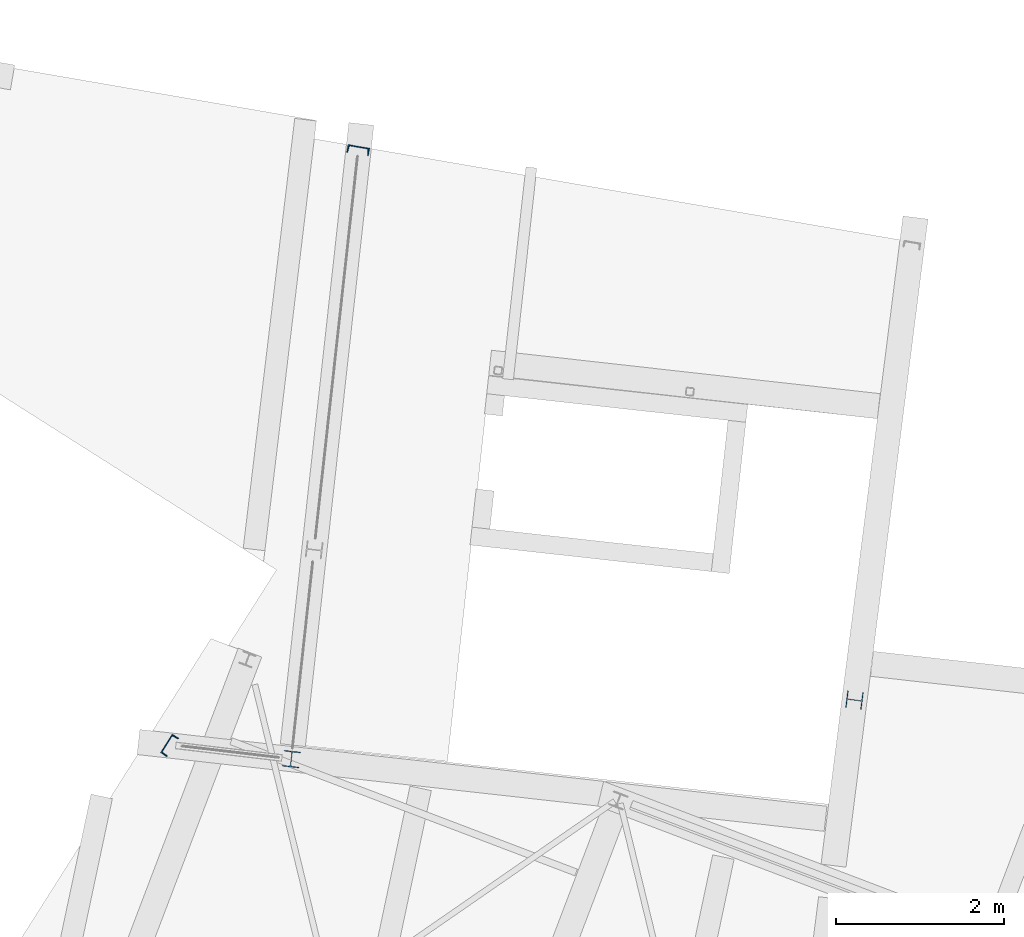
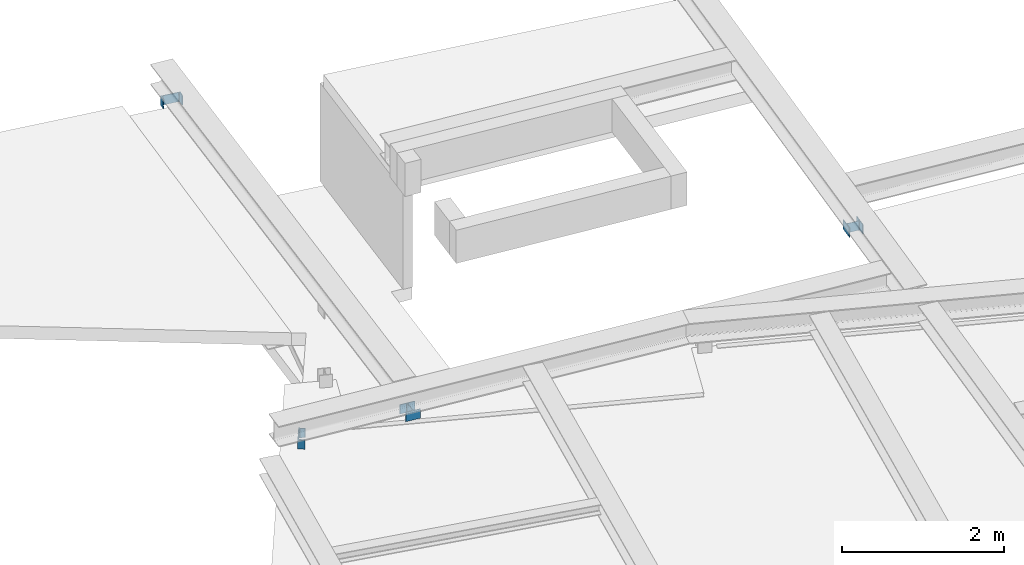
# One storey, part 20 of 21: 4 columns.
"""IFC2X3 building model written with IfcOpenShell, lengths in millimetres."""

from ifc_helpers import new_model, entity, si_unit, converted_unit, derived_unit, direction, frame, origin, place, context, subcontext, project, spatial, faceted_brep, source, transform, mapped, material, type_object, type_shapes, element, save


model = new_model("IFC2X3")

# Units and contexts
model_context = context("Model", 3, precision=0.01, world=origin(), true_north=direction((6.123233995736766e-17, 1.0)))
body_context = subcontext(model_context, "Body", "Model", "MODEL_VIEW")
ifc_project = project(units=[si_unit("LENGTHUNIT", "METRE", prefix="MILLI"), converted_unit("PLANEANGLEUNIT", "DEGREE", entity("IfcPlaneAngleMeasure", 0.017453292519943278), si_unit("PLANEANGLEUNIT", "RADIAN"), dimensions=[0, 0, 0, 0, 0, 0, 0]), si_unit("AREAUNIT", "SQUARE_METRE"), derived_unit("THERMALTRANSMITTANCEUNIT", [(si_unit("MASSUNIT", "GRAM", prefix="KILO"), 1), (si_unit("THERMODYNAMICTEMPERATUREUNIT", "KELVIN"), -1), (si_unit("TIMEUNIT", "SECOND"), -3)])], contexts=[model_context])

# Site, building, storey
site_placement = place(None, frame((-72937.88054949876, 11621.45624098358, 0.0), z_axis=(0.0, 0.0, 1.0), x_axis=(0.9346418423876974, -0.35559053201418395, 0.0)))
site = spatial("IfcSite", under=ifc_project, at=site_placement, Name="Default", CompositionType="ELEMENT")
building_placement = place(site_placement, origin())
building = spatial("IfcBuilding", under=site, at=building_placement, CompositionType="ELEMENT")
storey_placement = place(building_placement, frame((0.0, 0.0, 4250.0)))
storey = spatial("IfcBuildingStorey", under=building, at=storey_placement, Name="01 eerste verdieping", CompositionType="ELEMENT", Elevation=4250.0)

# Columns
ifc_material = material(Name="metaal_staal_generiek")
column_type_1 = type_object("IfcColumnType", Name="UNP260", PredefinedType="COLUMN", material=ifc_material)
shared_shape_1 = source(origin(), body_context, "Body", "Brep", [
    faceted_brep([(14568.064851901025, 27588.15574763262, 4250.0), (14479.877215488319, 27606.126300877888, 4250.0), (14479.877215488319, 27606.126300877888, 4390.0), (14568.064851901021, 27588.155747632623, 4390.0), (14567.278082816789, 27584.294803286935, 4390.0), (14567.278082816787, 27584.29480328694, 4343.809091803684), (14567.278082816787, 27584.29480328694, 4297.618183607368), (14567.278082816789, 27584.294803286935, 4250.0), (14516.14992030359, 27333.391464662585, 4250.0), (14516.93668938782, 27337.25240900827, 4250.0), (14516.93668938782, 27337.25240900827, 4297.61818360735), (14516.93668938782, 27337.25240900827, 4343.809091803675), (14516.93668938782, 27337.25240900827, 4390.0), (14516.14992030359, 27333.391464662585, 4390.0), (14564.974485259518, 27580.377632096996, 4355.356818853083), (14566.723605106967, 27582.650718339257, 4390.0), (14565.781787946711, 27581.1935150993, 4390.0), (14566.723605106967, 27582.650718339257, 4250.0), (14562.987830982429, 27579.18088218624, 4390.0), (14561.307346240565, 27578.74910460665, 4390.0), (14564.510494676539, 27580.01272118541, 4390.0), (14564.070773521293, 27579.720505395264, 4285.356818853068), (14559.57228603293, 27578.743915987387, 4297.618183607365), (14561.307346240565, 27578.74910460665, 4250.0), (14559.57228603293, 27578.743915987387, 4390.0), (14559.57228603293, 27578.743915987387, 4343.809091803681), (14559.57228603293, 27578.743915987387, 4250.0), (14564.510494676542, 27580.01272118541, 4320.7136377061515), (14564.510494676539, 27580.01272118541, 4250.0), (14565.781787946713, 27581.1935150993, 4250.0), (14562.987830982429, 27579.18088218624, 4250.0), (14499.152519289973, 27586.10668933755, 4250.0), (14499.152519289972, 27586.10668933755, 4390.0), (14499.152519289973, 27586.106689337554, 4315.323808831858), (14496.553846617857, 27586.180203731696, 4322.545894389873), (14493.975054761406, 27585.76907159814, 4319.999999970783), (14495.682398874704, 27586.09631209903, 4250.0), (14483.740925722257, 27575.00491473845, 4390.0), (14483.740925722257, 27575.00491473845, 4324.675967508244), (14483.740925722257, 27575.00491473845, 4250.0), (14484.494289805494, 27577.493076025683, 4317.454105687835), (14484.849881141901, 27578.293084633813, 4250.0), (14492.321429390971, 27585.23275693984, 4250.0), (14490.74701990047, 27584.49563752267, 4320.000000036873), (14489.276102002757, 27583.569078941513, 4390.0), (14492.321429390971, 27585.23275693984, 4390.0), (14495.682398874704, 27586.09631209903, 4390.0), (14489.276102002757, 27583.569078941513, 4250.0), (14485.70105078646, 27579.808875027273, 4319.999999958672), (14486.733515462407, 27581.207491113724, 4250.0), (14487.931355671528, 27582.467367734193, 4320.00000004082), (14486.733515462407, 27581.207491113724, 4390.0), (14484.849881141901, 27578.293084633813, 4390.0), (14443.695826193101, 27378.489947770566, 4250.0), (14443.695826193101, 27378.489947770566, 4390.0), (14443.695826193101, 27378.489947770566, 4315.323704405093), (14443.415491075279, 27375.905394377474, 4322.545894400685), (14443.619845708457, 27373.302043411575, 4319.999999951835), (14443.429681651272, 27375.030032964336, 4250.0), (14453.534355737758, 27362.24279565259, 4390.0), (14453.534355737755, 27362.242795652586, 4324.676114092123), (14453.534355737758, 27362.24279565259, 4250.0), (14451.114130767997, 27363.192013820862, 4317.454105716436), (14450.344998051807, 27363.6102169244, 4250.0), (14444.022699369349, 27371.610943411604, 4250.0), (14444.632031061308, 27369.982807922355, 4320.000000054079), (14445.438445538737, 27368.442741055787, 4390.0), (14444.022699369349, 27371.610943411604, 4390.0), (14443.429681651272, 27375.030032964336, 4390.0), (14445.438445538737, 27368.442741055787, 4250.0), (14448.901845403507, 27364.57945410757, 4319.999999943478), (14447.589939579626, 27365.7200738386, 4250.0), (14446.429508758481, 27367.014488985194, 4320.000000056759), (14447.589939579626, 27365.7200738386, 4390.0), (14450.344998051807, 27363.6102169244, 4390.0), (14512.017424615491, 27345.375985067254, 4390.0), (14512.017424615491, 27345.375985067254, 4343.809091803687), (14512.017424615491, 27345.375985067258, 4297.618183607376), (14512.017424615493, 27345.375985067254, 4250.0), (14515.738598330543, 27342.767602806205, 4355.356818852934), (14513.612103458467, 27344.69227443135, 4390.0), (14514.98963269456, 27343.63734597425, 4390.0), (14513.612103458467, 27344.69227443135, 4250.0), (14516.773252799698, 27340.691911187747, 4390.0), (14517.069761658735, 27338.982366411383, 4390.0), (14516.065379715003, 27342.276012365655, 4390.0), (14516.321630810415, 27341.814406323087, 4285.356818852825), (14517.069761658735, 27338.982366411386, 4250.0), (14516.06537971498, 27342.276012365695, 4320.713637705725), (14516.065379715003, 27342.27601236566, 4250.0), (14514.989632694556, 27343.63734597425, 4250.0), (14516.773252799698, 27340.691911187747, 4250.0), (14427.96228389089, 27351.362017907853, 4250.0), (14427.962283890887, 27351.362017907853, 4390.0)], [[[0, 1, 2, 3]], [[0, 3, 4, 5, 6, 7]], [[8, 9, 10, 11, 12, 13]], [[14, 15, 16]], [[4, 15, 5]], [[7, 6, 17]], [[14, 18, 19]], [[14, 16, 20]], [[21, 22, 23]], [[19, 24, 25]], [[22, 26, 23]], [[14, 5, 15]], [[27, 21, 6]], [[21, 28, 29]], [[25, 14, 19]], [[25, 22, 27]], [[5, 27, 6]], [[25, 27, 14]], [[30, 21, 23]], [[6, 21, 17]], [[27, 22, 21]], [[17, 21, 29]], [[21, 30, 28]], [[14, 27, 5]], [[14, 20, 18]], [[31, 26, 22, 25, 24, 32, 33]], [[34, 35, 36]], [[37, 38, 39, 40]], [[41, 40, 39]], [[42, 36, 35]], [[33, 32, 34, 31]], [[43, 42, 35]], [[44, 43, 45]], [[45, 35, 46]], [[47, 42, 43]], [[34, 36, 31]], [[48, 40, 41]], [[41, 49, 48]], [[49, 50, 48]], [[43, 44, 50]], [[35, 45, 43]], [[50, 44, 51]], [[47, 43, 50]], [[40, 48, 52]], [[51, 52, 48]], [[46, 35, 34]], [[52, 37, 40]], [[49, 47, 50]], [[46, 34, 32]], [[51, 48, 50]], [[53, 39, 38, 37, 54, 55]], [[56, 57, 58]], [[59, 60, 61, 62]], [[63, 62, 61]], [[64, 58, 57]], [[55, 54, 56, 53]], [[65, 64, 57]], [[66, 65, 67]], [[67, 57, 68]], [[69, 64, 65]], [[56, 58, 53]], [[70, 62, 63]], [[63, 71, 70]], [[71, 72, 70]], [[65, 66, 72]], [[57, 67, 65]], [[72, 66, 73]], [[69, 65, 72]], [[62, 70, 74]], [[73, 74, 70]], [[68, 57, 56]], [[74, 59, 62]], [[71, 69, 72]], [[68, 56, 54]], [[73, 70, 72]], [[61, 60, 59, 75, 76, 77, 78]], [[79, 80, 81]], [[75, 80, 76]], [[82, 78, 77]], [[79, 83, 84]], [[79, 81, 85]], [[86, 10, 87]], [[84, 12, 11]], [[10, 9, 87]], [[79, 76, 80]], [[77, 76, 88]], [[77, 88, 86]], [[86, 89, 90]], [[11, 79, 84]], [[86, 88, 10]], [[11, 88, 79]], [[91, 86, 87]], [[86, 82, 77]], [[88, 11, 10]], [[86, 90, 82]], [[86, 91, 89]], [[88, 76, 79]], [[79, 85, 83]], [[92, 8, 13, 93]], [[1, 92, 93, 2]], [[2, 93, 13, 12, 84, 83, 85, 81, 80, 75, 59, 74, 73, 66, 67, 68, 54, 37, 52, 51, 44, 45, 46, 32, 24, 19, 18, 20, 16, 15, 4, 3]], [[78, 82, 90, 89, 91, 87, 9, 8, 92, 1, 0, 7, 17, 29, 28, 30, 23, 26, 31, 36, 42, 47, 49, 41, 39, 53, 58, 64, 69, 71, 63, 61]]]),
])
type_shapes(column_type_1, [shared_shape_1])
column_1_placement = place(storey_placement, frame((0.0, 0.0, -4250.0)))
element("IfcColumn", 1, at=column_1_placement, inside=storey, type_object=column_type_1, material=ifc_material, Name="28.11_SCO_KolomUNP:UNP260", ObjectType="28.11_SCO_KolomUNP:UNP260", context=body_context, shape_type="MappedRepresentation", body=[
    mapped(shared_shape_1, transform((0.0, 0.0, 0.0), scale=1.0)),
])
column_type_2 = type_object("IfcColumnType", Name="HEA200", PredefinedType="COLUMN", material=ifc_material)
shared_shape_2 = source(origin(), body_context, "Body", "Brep", [
    faceted_brep([(15984.933091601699, 27950.966143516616, 4390.0), (15987.428508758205, 27941.28250302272, 4390.0), (15987.428508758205, 27941.28250302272, 4250.0), (15984.933091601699, 27950.966143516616, 4250.0), (16029.850600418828, 27776.6606146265, 4390.0), (16032.346017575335, 27766.976974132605, 4390.0), (16032.346017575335, 27766.976974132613, 4250.0), (16029.85060041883, 27776.6606146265, 4250.0), (15911.169839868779, 27921.631092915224, 4390.0), (15911.169839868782, 27921.631092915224, 4250.0), (15870.014367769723, 27911.02557000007, 4390.0), (15793.755698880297, 27891.374159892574, 4390.0), (15793.755698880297, 27891.374159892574, 4250.0), (15870.014367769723, 27911.02557000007, 4250.0), (15898.275725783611, 27904.367317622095, 4390.0), (15898.231037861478, 27899.7087891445, 4390.0), (15898.231037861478, 27899.7087891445, 4250.0), (15898.26256209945, 27902.99505875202, 4250.0), (15898.29408633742, 27906.28132835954, 4250.0), (15898.320413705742, 27909.025846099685, 4250.0), (15898.320413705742, 27909.02584609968, 4390.0), (15900.688378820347, 27913.037906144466, 4250.0), (15903.05634393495, 27917.04996618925, 4250.0), (15903.05634393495, 27917.04996618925, 4390.0), (15900.688378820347, 27913.037906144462, 4390.0), (15908.30808478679, 27920.01525890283, 4390.0), (15905.446329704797, 27918.399424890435, 4390.0), (15907.113091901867, 27919.34052955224, 4250.0), (15931.669627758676, 27769.948006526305, 4390.0), (15931.669627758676, 27769.948006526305, 4250.0), (15948.93340305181, 27757.053892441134, 4390.0), (15953.591931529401, 27757.009204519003, 4390.0), (15953.591931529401, 27757.009204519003, 4250.0), (15950.305661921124, 27757.040728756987, 4250.0), (15947.019392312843, 27757.072252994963, 4250.0), (15944.274874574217, 27757.09858036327, 4250.0), (15944.274874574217, 27757.09858036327, 4390.0), (15940.262814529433, 27759.466545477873, 4250.0), (15936.250754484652, 27761.83451059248, 4250.0), (15936.250754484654, 27761.83451059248, 4390.0), (15940.262814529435, 27759.466545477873, 4390.0), (15933.285461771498, 27767.086251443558, 4390.0), (15934.901295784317, 27764.224496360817, 4390.0), (15933.960191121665, 27765.89125855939, 4250.0), (15836.17779054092, 27726.752271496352, 4390.0), (15912.436459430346, 27746.40368160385, 4390.0), (15912.436459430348, 27746.40368160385, 4250.0), (15836.17779054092, 27726.752271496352, 4250.0), (15838.673207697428, 27717.068631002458, 4390.0), (15838.67320769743, 27717.068631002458, 4250.0), (15791.260281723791, 27901.05780038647, 4390.0), (15791.260281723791, 27901.057800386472, 4250.0), (15925.330573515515, 27763.667456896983, 4390.0), (15925.375261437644, 27768.325985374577, 4390.0), (15925.375261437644, 27768.325985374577, 4250.0), (15925.343737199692, 27765.03971576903, 4250.0), (15925.312212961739, 27761.75344616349, 4250.0), (15925.285885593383, 27759.00892841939, 4250.0), (15925.285885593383, 27759.008928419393, 4390.0), (15922.91792047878, 27754.996868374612, 4250.0), (15920.549955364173, 27750.984808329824, 4250.0), (15920.549955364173, 27750.984808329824, 4390.0), (15922.91792047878, 27754.996868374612, 4390.0), (15915.298214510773, 27748.019515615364, 4390.0), (15918.159969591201, 27749.635349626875, 4390.0), (15916.49320739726, 27748.69424496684, 4250.0), (15891.936671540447, 27898.08676799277, 4390.0), (15891.936671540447, 27898.086767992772, 4250.0), (15874.672896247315, 27910.98088207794, 4390.0), (15873.300637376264, 27910.994045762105, 4250.0), (15876.586906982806, 27910.962521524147, 4250.0), (15879.331424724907, 27910.936194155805, 4250.0), (15879.331424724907, 27910.936194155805, 4390.0), (15883.34348476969, 27908.5682290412, 4250.0), (15887.355544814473, 27906.200263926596, 4250.0), (15887.35554481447, 27906.200263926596, 4390.0), (15883.343484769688, 27908.5682290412, 4390.0), (15890.320837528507, 27900.94852307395, 4390.0), (15888.70500351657, 27903.81027815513, 4390.0), (15889.646108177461, 27902.143515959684, 4250.0)], [[[0, 1, 2, 3]], [[4, 5, 6, 7]], [[1, 8, 9, 2]], [[10, 11, 12, 13]], [[14, 15, 16, 17, 18, 19, 20]], [[21, 22, 23, 24, 20, 19]], [[25, 26, 23, 22, 27, 9, 8]], [[15, 28, 29, 16]], [[30, 31, 32, 33, 34, 35, 36]], [[37, 38, 39, 40, 36, 35]], [[41, 42, 39, 38, 43, 29, 28]], [[31, 4, 7, 32]], [[44, 45, 46, 47]], [[5, 48, 49, 6]], [[48, 44, 47, 49]], [[11, 50, 51, 12]], [[52, 53, 54, 55, 56, 57, 58]], [[58, 57, 59, 60, 61, 62]], [[63, 64, 61, 60, 65, 46, 45]], [[53, 66, 67, 54]], [[68, 10, 13, 69, 70, 71, 72]], [[73, 74, 75, 76, 72, 71]], [[77, 78, 75, 74, 79, 67, 66]], [[50, 0, 3, 51]], [[0, 50, 11, 10, 68, 72, 76, 75, 78, 77, 66, 53, 52, 58, 62, 61, 64, 63, 45, 44, 48, 5, 4, 31, 30, 36, 40, 39, 42, 41, 28, 15, 14, 20, 24, 23, 26, 25, 8, 1]], [[60, 59, 57, 56, 55, 54, 67, 79, 74, 73, 71, 70, 69, 13, 12, 51, 3, 2, 9, 27, 22, 21, 19, 18, 17, 16, 29, 43, 38, 37, 35, 34, 33, 32, 7, 6, 49, 47, 46, 65]]]),
])
type_shapes(column_type_2, [shared_shape_2])
column_2_placement = place(storey_placement, frame((0.0, 0.0, -4250.0)))
element("IfcColumn", 2, at=column_2_placement, inside=storey, type_object=column_type_2, material=ifc_material, Name="28.11_SCO_KolomHEA:HEA200", ObjectType="28.11_SCO_KolomHEA:HEA200", context=body_context, shape_type="MappedRepresentation", body=[
    mapped(shared_shape_2, transform((0.0, 0.0, 0.0), scale=1.0)),
])
column_type_3 = type_object("IfcColumnType", Name="UNP260", PredefinedType="COLUMN", material=ifc_material)
shared_shape_3 = source(origin(), body_context, "Body", "Brep", [
    faceted_brep([(14212.449408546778, 34882.25265388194, 4250.0), (14195.209571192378, 34970.58604512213, 4250.0), (14195.209571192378, 34970.58604512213, 4390.0), (14212.44940854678, 34882.25265388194, 4390.0), (14208.58208290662, 34881.49787628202, 4390.0), (14208.58208290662, 34881.49787628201, 4343.809091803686), (14208.58208290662, 34881.49787628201, 4297.618183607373), (14208.582082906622, 34881.49787628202, 4250.0), (13957.264056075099, 34832.44867930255, 4250.0), (13961.131381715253, 34833.20345690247, 4250.0), (13961.131381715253, 34833.20345690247, 4297.618183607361), (13961.131381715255, 34833.20345690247, 4343.8090918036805), (13961.131381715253, 34833.20345690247, 4390.0), (13957.264056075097, 34832.44867930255, 4390.0), (14200.499511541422, 34886.484227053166, 4343.809091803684), (14203.565865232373, 34882.41074619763, 4320.713637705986), (14204.08086939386, 34882.12227098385, 4355.356818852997), (14202.213484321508, 34883.497726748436, 4390.0), (14201.169996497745, 34884.883942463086, 4390.0), (14205.144051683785, 34881.689782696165, 4390.0), (14203.56586523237, 34882.41074619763, 4390.0), (14203.127304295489, 34882.70470039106, 4285.356818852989), (14200.499511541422, 34886.484227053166, 4297.618183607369), (14201.169996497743, 34884.88394246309, 4250.0), (14200.499511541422, 34886.484227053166, 4390.0), (14200.499511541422, 34886.484227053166, 4250.0), (14206.851083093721, 34881.37913078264, 4390.0), (14206.85108309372, 34881.37913078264, 4250.0), (14203.56586523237, 34882.41074619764, 4250.0), (14205.144051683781, 34881.689782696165, 4250.0), (14202.213484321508, 34883.497726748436, 4250.0), (14184.117456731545, 34945.10493094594, 4390.0), (14184.117456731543, 34945.10493094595, 4315.323808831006), (14184.117456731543, 34945.10493094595, 4250.0), (14183.188307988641, 34947.53293148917, 4322.545894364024), (14181.819230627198, 34949.75662756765, 4319.999999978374), (14182.776486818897, 34948.305500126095, 4250.0), (14167.95231400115, 34955.07763248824, 4390.0), (14167.95231400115, 34955.07763248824, 4324.676191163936), (14167.95231400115, 34955.07763248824, 4250.0), (14170.539099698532, 34955.33656064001, 4317.45410569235), (14171.41431362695, 34955.31512348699, 4250.0), (14180.689511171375, 34951.077931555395, 4250.0), (14179.404747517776, 34952.24903899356, 4320.000000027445), (14177.984749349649, 34953.251892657, 4390.0), (14180.689511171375, 34951.077931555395, 4390.0), (14182.776486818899, 34948.305500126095, 4390.0), (14177.984749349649, 34953.251892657, 4250.0), (14173.140669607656, 34955.1106600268, 4319.999999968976), (14174.828376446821, 34954.693819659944, 4250.0), (14176.45141151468, 34954.07102961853, 4320.000000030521), (14174.828376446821, 34954.693819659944, 4390.0), (14171.41431362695, 34955.31512348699, 4390.0), (13971.11255087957, 34916.66084067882, 4250.0), (13971.112550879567, 34916.66084067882, 4390.0), (13971.112550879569, 34916.660840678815, 4315.323808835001), (13968.618237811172, 34915.9281017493, 4322.545894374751), (13966.292527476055, 34914.740554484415, 4319.999999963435), (13967.815312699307, 34915.579145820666, 4250.0), (13959.883565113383, 34901.34168619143, 4390.0), (13959.883565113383, 34901.34168619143, 4324.676115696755), (13959.883565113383, 34901.34168619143, 4250.0), (13959.831567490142, 34903.940878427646, 4317.454105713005), (13959.92267090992, 34904.81160176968, 4250.0), (13964.885411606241, 34913.71970424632, 4250.0), (13963.615661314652, 34912.53233552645, 4320.000000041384), (13962.502854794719, 34911.19675628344, 4390.0), (13964.88541160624, 34913.71970424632, 4390.0), (13967.815312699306, 34915.579145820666, 4390.0), (13962.50285479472, 34911.19675628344, 4250.0), (13960.264035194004, 34906.516178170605, 4319.99999995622), (13960.81402173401, 34908.16530674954, 4250.0), (13961.56415032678, 34909.73355971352, 4320.000000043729), (13960.81402173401, 34908.165306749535, 4390.0), (13959.92267090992, 34904.81160176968, 4390.0), (13966.745874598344, 34840.86303414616, 4390.0), (13966.745874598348, 34840.86303414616, 4343.809091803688), (13966.745874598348, 34840.86303414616, 4297.618183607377), (13966.745874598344, 34840.86303414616, 4250.0), (13966.726321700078, 34839.12807635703, 4250.0), (13966.726321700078, 34839.12807635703, 4390.0), (13965.436229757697, 34835.93549910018, 4320.713637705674), (13965.764821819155, 34836.42588108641, 4355.356818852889), (13964.244951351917, 34834.674025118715, 4390.0), (13962.780000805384, 34833.74430433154, 4390.0), (13966.280646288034, 34837.4512238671, 4390.0), (13965.436229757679, 34835.93549910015, 4390.0), (13965.10826690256, 34835.52175385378, 4285.356818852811), (13962.780000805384, 34833.74430433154, 4250.0), (13965.436229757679, 34835.93549910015, 4250.0), (13966.28064628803, 34837.4512238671, 4250.0), (13964.244951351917, 34834.674025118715, 4250.0), (13940.024218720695, 34920.78207054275, 4250.0), (13940.024218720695, 34920.782070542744, 4390.0)], [[[0, 1, 2, 3]], [[0, 3, 4, 5, 6, 7]], [[8, 9, 10, 11, 12, 13]], [[14, 15, 16]], [[5, 15, 6]], [[16, 17, 18]], [[16, 19, 20]], [[21, 22, 23]], [[18, 24, 14]], [[22, 25, 23]], [[16, 5, 26]], [[6, 27, 7]], [[4, 26, 5]], [[6, 15, 21]], [[21, 28, 29]], [[14, 16, 18]], [[14, 22, 15]], [[16, 26, 19]], [[30, 21, 23]], [[6, 21, 27]], [[15, 22, 21]], [[27, 21, 29]], [[21, 30, 28]], [[16, 15, 5]], [[16, 20, 17]], [[25, 22, 14, 24, 31, 32, 33]], [[34, 35, 36]], [[37, 38, 39, 40]], [[41, 40, 39]], [[42, 36, 35]], [[32, 31, 34, 33]], [[43, 42, 35]], [[44, 43, 45]], [[45, 35, 46]], [[47, 42, 43]], [[34, 36, 33]], [[48, 40, 41]], [[41, 49, 48]], [[49, 50, 48]], [[43, 44, 50]], [[35, 45, 43]], [[50, 44, 51]], [[47, 43, 50]], [[40, 48, 52]], [[51, 52, 48]], [[46, 35, 34]], [[52, 37, 40]], [[49, 47, 50]], [[46, 34, 31]], [[51, 48, 50]], [[53, 39, 38, 37, 54, 55]], [[56, 57, 58]], [[59, 60, 61, 62]], [[63, 62, 61]], [[64, 58, 57]], [[55, 54, 56, 53]], [[65, 64, 57]], [[66, 65, 67]], [[67, 57, 68]], [[69, 64, 65]], [[56, 58, 53]], [[70, 62, 63]], [[63, 71, 70]], [[71, 72, 70]], [[65, 66, 72]], [[57, 67, 65]], [[72, 66, 73]], [[69, 65, 72]], [[62, 70, 74]], [[73, 74, 70]], [[68, 57, 56]], [[74, 59, 62]], [[71, 69, 72]], [[68, 56, 54]], [[73, 70, 72]], [[61, 60, 59, 75, 76, 77, 78]], [[79, 78, 77]], [[75, 80, 76]], [[81, 76, 82]], [[82, 83, 84]], [[82, 85, 86]], [[87, 10, 88]], [[84, 12, 11]], [[10, 9, 88]], [[82, 76, 80]], [[77, 76, 81]], [[77, 81, 87]], [[87, 89, 90]], [[11, 82, 84]], [[87, 81, 10]], [[82, 80, 85]], [[11, 81, 82]], [[91, 87, 88]], [[87, 79, 77]], [[81, 11, 10]], [[87, 90, 79]], [[87, 91, 89]], [[82, 86, 83]], [[92, 8, 13, 93]], [[1, 92, 93, 2]], [[2, 93, 13, 12, 84, 83, 86, 85, 80, 75, 59, 74, 73, 66, 67, 68, 54, 37, 52, 51, 44, 45, 46, 31, 24, 18, 17, 20, 19, 26, 4, 3]], [[25, 33, 36, 42, 47, 49, 41, 39, 53, 58, 64, 69, 71, 63, 61, 78, 79, 90, 89, 91, 88, 9, 8, 92, 1, 0, 7, 27, 29, 28, 30, 23]]]),
])
type_shapes(column_type_3, [shared_shape_3])
column_3_placement = place(storey_placement, frame((0.0, 0.0, -4250.0)))
element("IfcColumn", 3, at=column_3_placement, inside=storey, type_object=column_type_3, material=ifc_material, Name="28.11_SCO_KolomUNP:UNP260", ObjectType="28.11_SCO_KolomUNP:UNP260", context=body_context, shape_type="MappedRepresentation", body=[
    mapped(shared_shape_3, transform((0.0, 0.0, 0.0), scale=1.0)),
])
column_type_4 = type_object("IfcColumnType", Name="HEA200", PredefinedType="COLUMN", material=ifc_material)
shared_shape_4 = source(origin(), body_context, "Body", "Brep", [
    faceted_brep([(21820.27056815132, 30954.01671503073, 4390.0), (21829.98922387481, 30956.37207719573, 4390.0), (21829.989223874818, 30956.37207719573, 4250.0), (21820.27056815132, 30954.01671503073, 4250.0), (21995.206371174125, 30996.413234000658, 4390.0), (22004.92502689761, 30998.768596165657, 4390.0), (22004.92502689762, 30998.768596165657, 4250.0), (21995.206371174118, 30996.41323400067, 4250.0), (21848.53770092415, 30879.83766337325, 4390.0), (21848.53770092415, 30879.83766337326, 4250.0), (21858.547990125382, 30838.53337654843, 4390.0), (21877.096467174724, 30761.99896272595, 4390.0), (21877.09646717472, 30761.998962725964, 4250.0), (21858.547990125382, 30838.53337654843, 4250.0), (21865.61353522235, 30866.6956696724, 4390.0), (21870.27093312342, 30866.583734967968, 4390.0), (21870.27093312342, 30866.583734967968, 4250.0), (21866.985461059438, 30866.662697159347, 4250.0), (21863.699988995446, 30866.741659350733, 4250.0), (21860.95613732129, 30866.807604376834, 4250.0), (21860.95613732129, 30866.807604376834, 4390.0), (21856.978679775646, 30869.23324162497, 4250.0), (21853.001222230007, 30871.65887887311, 4250.0), (21853.001222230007, 30871.65887887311, 4390.0), (21856.978679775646, 30869.23324162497, 4390.0), (21850.11205369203, 30876.952880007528, 4390.0), (21851.68640645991, 30874.0680966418, 4390.0), (21850.769461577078, 30875.748271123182, 4250.0), (22000.50091981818, 30898.14558797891, 4390.0), (22000.50091981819, 30898.145587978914, 4250.0), (22013.642913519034, 30915.221422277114, 4390.0), (22013.754848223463, 30919.87882017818, 4390.0), (22013.754848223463, 30919.87882017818, 4250.0), (22013.675886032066, 30916.593348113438, 4250.0), (22013.596923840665, 30913.307876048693, 4250.0), (22013.5309788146, 30910.564024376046, 4250.0), (22013.5309788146, 30910.564024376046, 4390.0), (22011.105341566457, 30906.586566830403, 4250.0), (22008.67970431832, 30902.609109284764, 4250.0), (22008.67970431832, 30902.609109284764, 4390.0), (22011.105341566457, 30906.586566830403, 4390.0), (22003.385703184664, 30899.7199407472, 4390.0), (22006.27048655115, 30901.294293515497, 4390.0), (22004.59031206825, 30900.377348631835, 4250.0), (22042.31361447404, 30802.04011953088, 4390.0), (22023.765137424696, 30878.574533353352, 4390.0), (22023.765137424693, 30878.574533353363, 4250.0), (22042.313614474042, 30802.04011953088, 4250.0), (22052.032270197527, 30804.395481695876, 4390.0), (22052.032270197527, 30804.395481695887, 4250.0), (21867.377811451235, 30759.643600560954, 4390.0), (21867.377811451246, 30759.643600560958, 4250.0), (22006.689303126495, 30891.716527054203, 4390.0), (22002.031905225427, 30891.828461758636, 4390.0), (22002.031905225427, 30891.828461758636, 4250.0), (22005.317377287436, 30891.749499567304, 4250.0), (22008.60284934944, 30891.67053737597, 4250.0), (22011.34670102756, 30891.604592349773, 4250.0), (22011.34670102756, 30891.604592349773, 4390.0), (22015.3241585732, 30889.17895510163, 4250.0), (22019.301616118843, 30886.753317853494, 4250.0), (22019.301616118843, 30886.753317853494, 4390.0), (22015.3241585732, 30889.178955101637, 4390.0), (22022.19078465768, 30881.4593167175, 4390.0), (22020.616431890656, 30884.344100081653, 4390.0), (22021.53337677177, 30882.66392560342, 4250.0), (21871.801918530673, 30860.2666087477, 4390.0), (21871.801918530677, 30860.2666087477, 4250.0), (21858.659924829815, 30843.190774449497, 4390.0), (21858.626952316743, 30841.81884861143, 4250.0), (21858.7059145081, 30845.104320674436, 4250.0), (21858.77185953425, 30847.84817235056, 4250.0), (21858.77185953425, 30847.84817235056, 4390.0), (21861.197496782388, 30851.8256298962, 4250.0), (21863.623134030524, 30855.80308744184, 4250.0), (21863.623134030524, 30855.80308744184, 4390.0), (21861.197496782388, 30851.8256298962, 4390.0), (21868.917135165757, 30858.692255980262, 4390.0), (21866.03235180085, 30857.117903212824, 4390.0), (21867.712526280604, 30858.03484809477, 4250.0)], [[[0, 1, 2, 3]], [[4, 5, 6, 7]], [[1, 8, 9, 2]], [[10, 11, 12, 13]], [[14, 15, 16, 17, 18, 19, 20]], [[21, 22, 23, 24, 20, 19]], [[25, 26, 23, 22, 27, 9, 8]], [[15, 28, 29, 16]], [[30, 31, 32, 33, 34, 35, 36]], [[37, 38, 39, 40, 36, 35]], [[41, 42, 39, 38, 43, 29, 28]], [[31, 4, 7, 32]], [[44, 45, 46, 47]], [[5, 48, 49, 6]], [[48, 44, 47, 49]], [[11, 50, 51, 12]], [[52, 53, 54, 55, 56, 57, 58]], [[58, 57, 59, 60, 61, 62]], [[63, 64, 61, 60, 65, 46, 45]], [[53, 66, 67, 54]], [[68, 10, 13, 69, 70, 71, 72]], [[73, 74, 75, 76, 72, 71]], [[77, 78, 75, 74, 79, 67, 66]], [[50, 0, 3, 51]], [[0, 50, 11, 10, 68, 72, 76, 75, 78, 77, 66, 53, 52, 58, 62, 61, 64, 63, 45, 44, 48, 5, 4, 31, 30, 36, 40, 39, 42, 41, 28, 15, 14, 20, 24, 23, 26, 25, 8, 1]], [[49, 47, 46, 65, 60, 59, 57, 56, 55, 54, 67, 79, 74, 73, 71, 70, 69, 13, 12, 51, 3, 2, 9, 27, 22, 21, 19, 18, 17, 16, 29, 43, 38, 37, 35, 34, 33, 32, 7, 6]]]),
])
type_shapes(column_type_4, [shared_shape_4])
column_4_placement = place(storey_placement, frame((0.0, 0.0, -4250.0)))
element("IfcColumn", 4, at=column_4_placement, inside=storey, type_object=column_type_4, material=ifc_material, Name="28.11_SCO_KolomHEA:HEA200", ObjectType="28.11_SCO_KolomHEA:HEA200", context=body_context, shape_type="MappedRepresentation", body=[
    mapped(shared_shape_4, transform((0.0, 0.0, 0.0), scale=1.0)),
])

save(model, "model.ifc")
